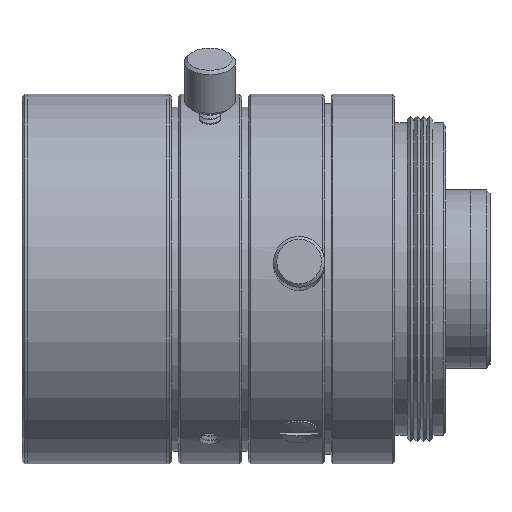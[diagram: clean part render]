
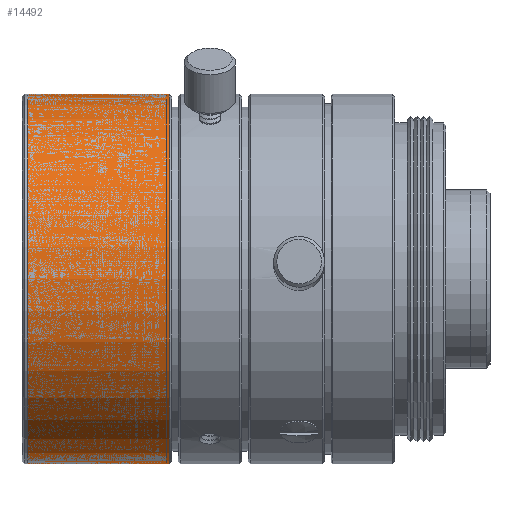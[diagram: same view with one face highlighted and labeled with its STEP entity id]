
A CAD part, top view. The second image highlights one B-rep face of the part: STEP entity #14492.
In plain terms, the highlighted cylindrical face has radius 14.5 mm (diameter 29 mm), a full revolution.
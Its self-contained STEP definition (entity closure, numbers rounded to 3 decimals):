
#799=CYLINDRICAL_SURFACE('',#16151,14.5);
#1266=ORIENTED_EDGE('',*,*,#4750,.T.);
#1267=ORIENTED_EDGE('',*,*,#4749,.F.);
#4749=EDGE_CURVE('',#6492,#6492,#7981,.T.);
#4750=EDGE_CURVE('',#6493,#6493,#7982,.T.);
#6492=VERTEX_POINT('',#23935);
#6493=VERTEX_POINT('',#23938);
#7981=CIRCLE('',#16150,14.5);
#7982=CIRCLE('',#16152,14.5);
#9230=EDGE_LOOP('',(#1266));
#9231=EDGE_LOOP('',(#1267));
#11470=FACE_BOUND('',#9230,.T.);
#11471=FACE_BOUND('',#9231,.T.);
#14492=ADVANCED_FACE('',(#11470,#11471),#799,.T.);
#16150=AXIS2_PLACEMENT_3D('',#23934,#18664,#18665);
#16151=AXIS2_PLACEMENT_3D('',#23936,#18666,#18667);
#16152=AXIS2_PLACEMENT_3D('',#23937,#18668,#18669);
#18664=DIRECTION('',(1.,0.,0.));
#18665=DIRECTION('',(0.,1.,0.));
#18666=DIRECTION('',(-1.,0.,0.));
#18667=DIRECTION('',(0.,1.,0.));
#18668=DIRECTION('',(1.,0.,0.));
#18669=DIRECTION('',(0.,1.,0.));
#23934=CARTESIAN_POINT('',(-35.2,0.,0.));
#23935=CARTESIAN_POINT('',(-35.2,14.5,0.));
#23936=CARTESIAN_POINT('',(-40.75,0.,0.));
#23937=CARTESIAN_POINT('',(-46.3,0.,0.));
#23938=CARTESIAN_POINT('',(-46.3,14.5,0.));
